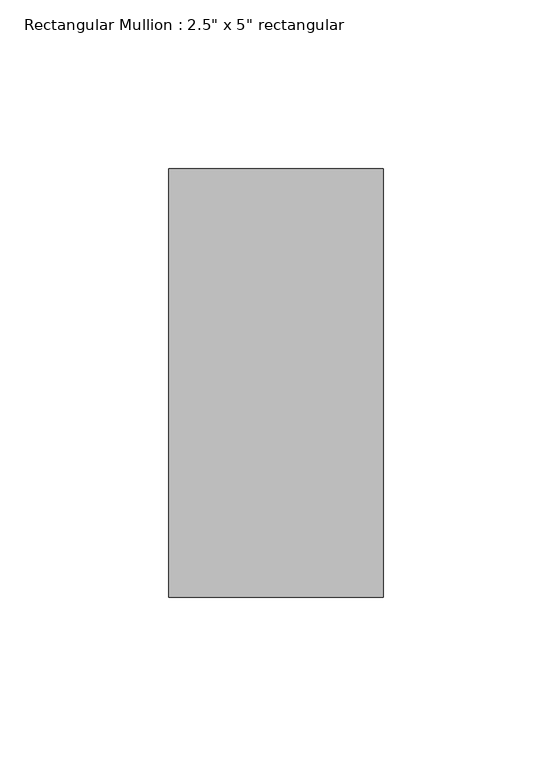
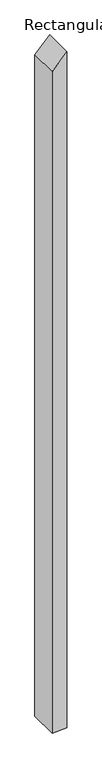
"""IFC4 building model written with IfcOpenShell, lengths in millimetres: member geometry."""

from ifc_helpers import new_model, si_unit, frame, origin, place, context, project, spatial, polyline, outline, extrude, source, transform, mapped, element, save


def member_c276d55d(model_context):
    return source(origin(), model_context, "Body", "SweptSolid", [
        extrude(outline(polyline([(0.0, 0.0), (-67.0389586, -63.5), (-3055.2694392, -63.5), (-3052.4836834, 0.0), (0.0, 0.0)])), frame((0.0, -63.5, 0.0), z_axis=(0.0, 1.0, 0.0), x_axis=(0.0, 0.0, 1.0)), (0.0, 0.0, 1.0), 127.0),
    ])


if __name__ == "__main__":
    model = new_model("IFC4")
    model_context = context("Model", 3, world=origin())
    ifc_project = project(units=[si_unit("LENGTHUNIT", "METRE", prefix="MILLI")], contexts=[model_context])
    site = spatial("IfcSite", under=ifc_project)
    building = spatial("IfcBuilding", under=site)
    placement = place(None, origin())
    member_shape = member_c276d55d(model_context)
    element("IfcMember", 1, ObjectType="Rectangular Mullion : 2.5\" x 5\" rectangular", at=placement, inside=building, context=model_context, shape_type="MappedRepresentation", body=[
        mapped(member_shape, transform((0.0, 0.0, 0.0), x_axis=(1.0, 0.0, 0.0), y_axis=(0.0, 1.0, 0.0), z_axis=(0.0, 0.0, 1.0))),
    ])
    save(model, "model.ifc")
